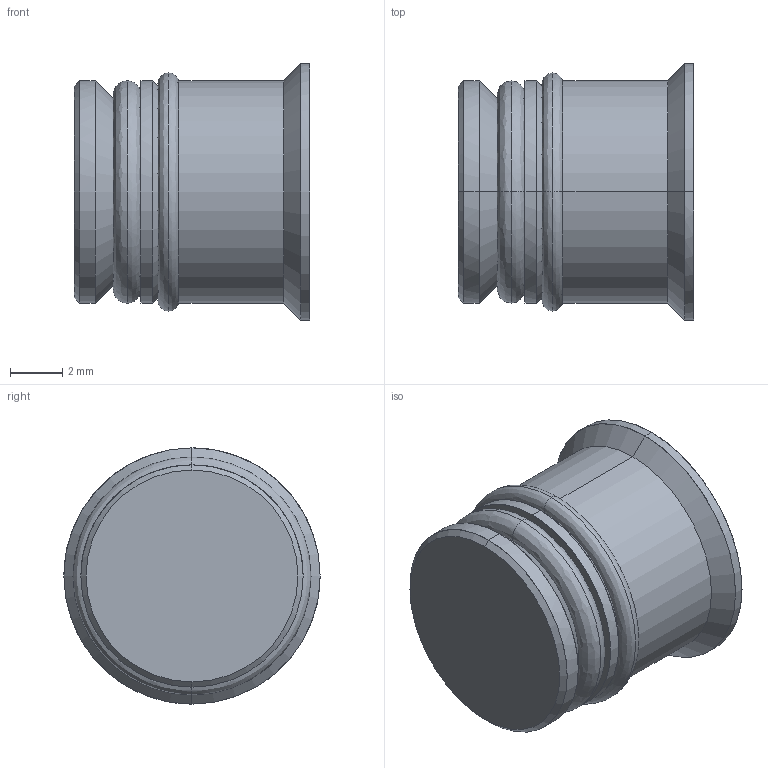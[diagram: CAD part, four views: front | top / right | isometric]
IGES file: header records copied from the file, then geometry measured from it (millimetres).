
Start section: START RECORD GO HERE.
Global section: file name: TR-8.igs; native system: DASSAULT SYSTEMES CATIA V5 R20 - www.3ds.com; preprocessor: CATIA Version 5 Release 20 ; author: Utente; organization: NB04-ASUS; date: 20210223.202214; units: millimetre
Bounding box: 9 x 9.8 x 9.8 mm (x, y, z)
Surface area: 570.7 mm2 (no closed solid volume)
Topology: 0 solids, 0 shells, 47 faces, 264 edges, 264 vertices
Faces by surface type: revolution 28, plane 19
